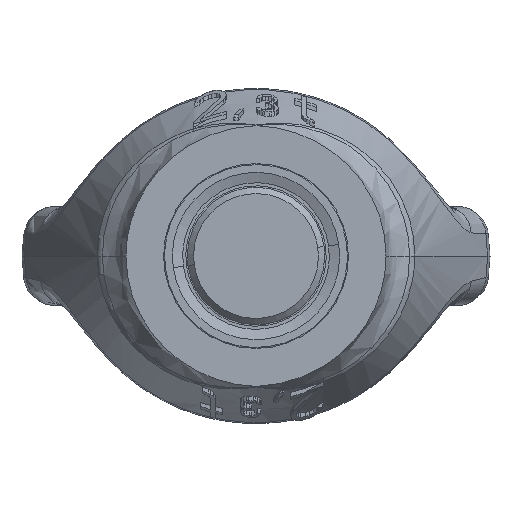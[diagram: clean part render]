
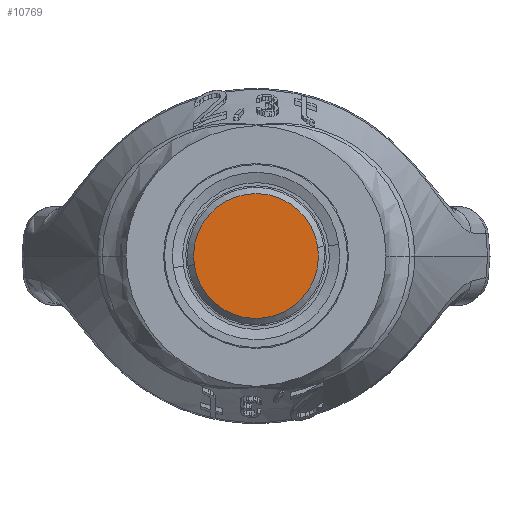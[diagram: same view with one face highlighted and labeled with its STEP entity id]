
A CAD part, front view. The second image highlights one B-rep face of the part: STEP entity #10769.
In plain terms, the highlighted planar face has unit normal (0, -1, 0) as drawn and (1, 0, 0) by its records, which use the part's own axes.
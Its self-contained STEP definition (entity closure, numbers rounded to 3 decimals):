
#3574 = CARTESIAN_POINT ( 'NONE',  ( 46.5, -18., -37. ) ) ;
#4896 = DIRECTION ( 'NONE',  ( 0., 0., -1. ) ) ;
#6935 = CARTESIAN_POINT ( 'NONE',  ( 46.5, 0., 0. ) ) ;
#10769 = ADVANCED_FACE ( 'NONE', ( #34754 ), #35020, .T. ) ;
#11117 = DIRECTION ( 'NONE',  ( 1., 0., 0. ) ) ;
#14320 = CARTESIAN_POINT ( 'NONE',  ( 46.5, 0., -10. ) ) ;
#15569 = DIRECTION ( 'NONE',  ( 0., 0., -1. ) ) ;
#16597 = VERTEX_POINT ( 'NONE', #14320 ) ;
#16943 = DIRECTION ( 'NONE',  ( 1., 0., 0. ) ) ;
#18602 = CIRCLE ( 'NONE', #25275, 10. ) ;
#20950 = ORIENTED_EDGE ( 'NONE', *, *, #33244, .T. ) ;
#23057 = EDGE_LOOP ( 'NONE', ( #46031, #20950 ) ) ;
#25275 = AXIS2_PLACEMENT_3D ( 'NONE', #25580, #16943, #4896 ) ;
#25580 = CARTESIAN_POINT ( 'NONE',  ( 46.5, 0., 0. ) ) ;
#33244 = EDGE_CURVE ( 'NONE', #16597, #41436, #18602, .T. ) ;
#33940 = AXIS2_PLACEMENT_3D ( 'NONE', #6935, #11117, #15569 ) ;
#34754 = FACE_OUTER_BOUND ( 'NONE', #23057, .T. ) ;
#35020 = PLANE ( 'NONE',  #46249 ) ;
#35524 = DIRECTION ( 'NONE',  ( 1., 0., 0. ) ) ;
#41436 = VERTEX_POINT ( 'NONE', #45319 ) ;
#43981 = CIRCLE ( 'NONE', #33940, 10. ) ;
#45319 = CARTESIAN_POINT ( 'NONE',  ( 46.5, 0., 10. ) ) ;
#45649 = EDGE_CURVE ( 'NONE', #41436, #16597, #43981, .T. ) ;
#46031 = ORIENTED_EDGE ( 'NONE', *, *, #45649, .T. ) ;
#46249 = AXIS2_PLACEMENT_3D ( 'NONE', #3574, #35524, #46787 ) ;
#46787 = DIRECTION ( 'NONE',  ( 0., 0., -1. ) ) ;
